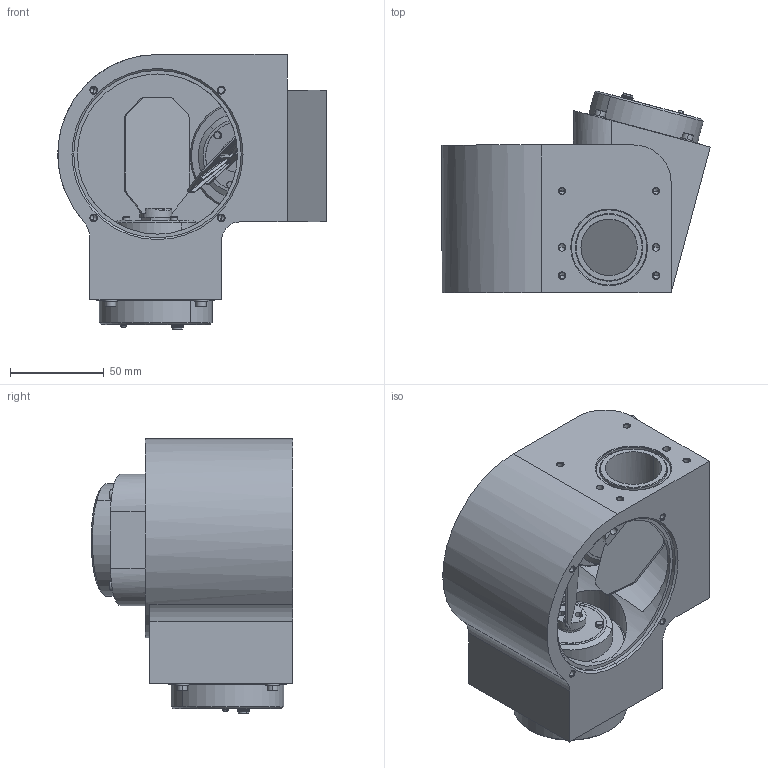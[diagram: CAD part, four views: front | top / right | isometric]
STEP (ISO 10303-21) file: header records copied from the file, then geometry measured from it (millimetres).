
FILE_DESCRIPTION (( 'STEP AP203' ), '1' );
FILE_NAME ('2D-MSA-A30.STEP', '2010-09-16T03:07:10', ( '' ), ( '' ), 'SwSTEP 2.0', 'SolidWorks 2011', '' );
FILE_SCHEMA (( 'CONFIG_CONTROL_DESIGN' ));
Length unit declared in the file: millimetre
Products named in the file (11): 2D-MSA-A30; socket head cap screw_iso_ISO 4762 M3 x 8 --- 8N; plain washer 10673 type snl_iso_ISO 10673-3.2-S; RLAY_A30_SiC; A30N_SiC_MirrorY; RLAX_A30_SiC; socket head cap screw_iso_ISO 4762 M2 x 6 --- 6N; A30N_SiC_MirrorX; RLA_Draw15_0; RLA_solid; RLA_Draw08_1
Assembly tree (29 placements, depth 3):
  2D-MSA-A30
    socket head cap screw_iso_ISO 4762 M3 x 8 --- 8N  x8
    plain washer 10673 type snl_iso_ISO 10673-3.2-S  x8
    RLAY_A30_SiC
      socket head cap screw_iso_ISO 4762 M2 x 6 --- 6N  x2
      RLA_Draw15_0
      A30N_SiC_MirrorY
      RLA_solid
    RLAX_A30_SiC
      socket head cap screw_iso_ISO 4762 M2 x 6 --- 6N  x2
      A30N_SiC_MirrorX
      RLA_Draw15_0
      RLA_solid
    RLA_Draw08_1
Bounding box: 142.74 x 107.27 x 146.35 mm (x, y, z)
Volume: 713219.3 mm3; surface area: 143348.8 mm2
Topology: 27 solids, 27 shells, 3236 faces, 7962 edges, 5126 vertices
Faces by surface type: plane 2165, bspline 402, cylinder 374, cone 231, torus 64
Entity records: 102961 total; most frequent: CARTESIAN_POINT 37217, ORIENTED_EDGE 13848, DIRECTION 11495, EDGE_CURVE 6924, VECTOR 5495, LINE 5495, VERTEX_POINT 4540, EDGE_LOOP 3170
